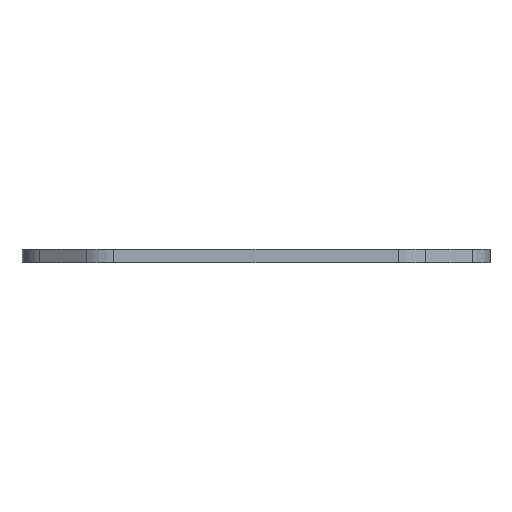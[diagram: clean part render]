
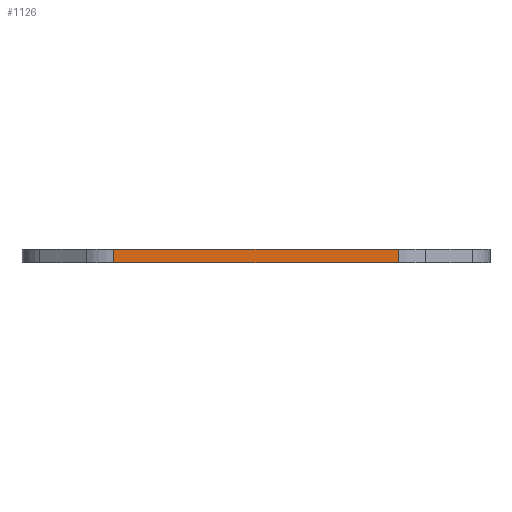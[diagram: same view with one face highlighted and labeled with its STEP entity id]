
A CAD part, front view. The second image highlights one B-rep face of the part: STEP entity #1126.
In plain terms, the highlighted planar face has unit normal (0, -1, 0).
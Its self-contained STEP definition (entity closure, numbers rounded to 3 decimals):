
#72 = PLANE('',#73);
#73 = AXIS2_PLACEMENT_3D('',#74,#75,#76);
#74 = CARTESIAN_POINT('',(52.,85.543,3.));
#75 = DIRECTION('',(0.,0.,1.));
#76 = DIRECTION('',(1.,0.,-0.));
#126 = PLANE('',#127);
#127 = AXIS2_PLACEMENT_3D('',#128,#129,#130);
#128 = CARTESIAN_POINT('',(52.,85.543,0.));
#129 = DIRECTION('',(0.,0.,1.));
#130 = DIRECTION('',(1.,0.,-0.));
#437 = VERTEX_POINT('',#438);
#438 = CARTESIAN_POINT('',(20.385,0.,0.));
#453 = CYLINDRICAL_SURFACE('',#454,10.);
#454 = AXIS2_PLACEMENT_3D('',#455,#456,#457);
#455 = CARTESIAN_POINT('',(20.385,10.,0.));
#456 = DIRECTION('',(-0.,-0.,-1.));
#457 = DIRECTION('',(1.,0.,-0.));
#465 = EDGE_CURVE('',#437,#466,#468,.T.);
#466 = VERTEX_POINT('',#467);
#467 = CARTESIAN_POINT('',(83.615,0.,0.));
#468 = SURFACE_CURVE('',#469,(#473,#480),.PCURVE_S1.);
#469 = LINE('',#470,#471);
#470 = CARTESIAN_POINT('',(20.385,0.,0.));
#471 = VECTOR('',#472,1.);
#472 = DIRECTION('',(1.,0.,0.));
#473 = PCURVE('',#126,#474);
#474 = DEFINITIONAL_REPRESENTATION('',(#475),#479);
#475 = LINE('',#476,#477);
#476 = CARTESIAN_POINT('',(-31.615,-85.543));
#477 = VECTOR('',#478,1.);
#478 = DIRECTION('',(1.,0.));
#479 = ( GEOMETRIC_REPRESENTATION_CONTEXT(2) 
PARAMETRIC_REPRESENTATION_CONTEXT() REPRESENTATION_CONTEXT('2D SPACE',''
  ) );
#480 = PCURVE('',#481,#486);
#481 = PLANE('',#482);
#482 = AXIS2_PLACEMENT_3D('',#483,#484,#485);
#483 = CARTESIAN_POINT('',(20.385,0.,0.));
#484 = DIRECTION('',(0.,1.,0.));
#485 = DIRECTION('',(1.,0.,0.));
#486 = DEFINITIONAL_REPRESENTATION('',(#487),#491);
#487 = LINE('',#488,#489);
#488 = CARTESIAN_POINT('',(0.,0.));
#489 = VECTOR('',#490,1.);
#490 = DIRECTION('',(1.,0.));
#491 = ( GEOMETRIC_REPRESENTATION_CONTEXT(2) 
PARAMETRIC_REPRESENTATION_CONTEXT() REPRESENTATION_CONTEXT('2D SPACE',''
  ) );
#510 = CYLINDRICAL_SURFACE('',#511,10.);
#511 = AXIS2_PLACEMENT_3D('',#512,#513,#514);
#512 = CARTESIAN_POINT('',(83.615,10.,0.));
#513 = DIRECTION('',(-0.,-0.,-1.));
#514 = DIRECTION('',(1.,0.,-0.));
#807 = VERTEX_POINT('',#808);
#808 = CARTESIAN_POINT('',(20.385,0.,3.));
#830 = EDGE_CURVE('',#807,#831,#833,.T.);
#831 = VERTEX_POINT('',#832);
#832 = CARTESIAN_POINT('',(83.615,0.,3.));
#833 = SURFACE_CURVE('',#834,(#838,#845),.PCURVE_S1.);
#834 = LINE('',#835,#836);
#835 = CARTESIAN_POINT('',(20.385,0.,3.));
#836 = VECTOR('',#837,1.);
#837 = DIRECTION('',(1.,0.,0.));
#838 = PCURVE('',#72,#839);
#839 = DEFINITIONAL_REPRESENTATION('',(#840),#844);
#840 = LINE('',#841,#842);
#841 = CARTESIAN_POINT('',(-31.615,-85.543));
#842 = VECTOR('',#843,1.);
#843 = DIRECTION('',(1.,0.));
#844 = ( GEOMETRIC_REPRESENTATION_CONTEXT(2) 
PARAMETRIC_REPRESENTATION_CONTEXT() REPRESENTATION_CONTEXT('2D SPACE',''
  ) );
#845 = PCURVE('',#481,#846);
#846 = DEFINITIONAL_REPRESENTATION('',(#847),#851);
#847 = LINE('',#848,#849);
#848 = CARTESIAN_POINT('',(0.,-3.));
#849 = VECTOR('',#850,1.);
#850 = DIRECTION('',(1.,0.));
#851 = ( GEOMETRIC_REPRESENTATION_CONTEXT(2) 
PARAMETRIC_REPRESENTATION_CONTEXT() REPRESENTATION_CONTEXT('2D SPACE',''
  ) );
#1076 = EDGE_CURVE('',#466,#831,#1077,.T.);
#1077 = SURFACE_CURVE('',#1078,(#1082,#1089),.PCURVE_S1.);
#1078 = LINE('',#1079,#1080);
#1079 = CARTESIAN_POINT('',(83.615,0.,0.));
#1080 = VECTOR('',#1081,1.);
#1081 = DIRECTION('',(0.,0.,1.));
#1082 = PCURVE('',#510,#1083);
#1083 = DEFINITIONAL_REPRESENTATION('',(#1084),#1088);
#1084 = LINE('',#1085,#1086);
#1085 = CARTESIAN_POINT('',(-4.712,0.));
#1086 = VECTOR('',#1087,1.);
#1087 = DIRECTION('',(-0.,-1.));
#1088 = ( GEOMETRIC_REPRESENTATION_CONTEXT(2) 
PARAMETRIC_REPRESENTATION_CONTEXT() REPRESENTATION_CONTEXT('2D SPACE',''
  ) );
#1089 = PCURVE('',#481,#1090);
#1090 = DEFINITIONAL_REPRESENTATION('',(#1091),#1095);
#1091 = LINE('',#1092,#1093);
#1092 = CARTESIAN_POINT('',(63.229,0.));
#1093 = VECTOR('',#1094,1.);
#1094 = DIRECTION('',(0.,-1.));
#1095 = ( GEOMETRIC_REPRESENTATION_CONTEXT(2) 
PARAMETRIC_REPRESENTATION_CONTEXT() REPRESENTATION_CONTEXT('2D SPACE',''
  ) );
#1126 = ADVANCED_FACE('',(#1127),#481,.F.);
#1127 = FACE_BOUND('',#1128,.F.);
#1128 = EDGE_LOOP('',(#1129,#1150,#1151,#1152));
#1129 = ORIENTED_EDGE('',*,*,#1130,.T.);
#1130 = EDGE_CURVE('',#437,#807,#1131,.T.);
#1131 = SURFACE_CURVE('',#1132,(#1136,#1143),.PCURVE_S1.);
#1132 = LINE('',#1133,#1134);
#1133 = CARTESIAN_POINT('',(20.385,0.,0.));
#1134 = VECTOR('',#1135,1.);
#1135 = DIRECTION('',(0.,0.,1.));
#1136 = PCURVE('',#481,#1137);
#1137 = DEFINITIONAL_REPRESENTATION('',(#1138),#1142);
#1138 = LINE('',#1139,#1140);
#1139 = CARTESIAN_POINT('',(0.,0.));
#1140 = VECTOR('',#1141,1.);
#1141 = DIRECTION('',(0.,-1.));
#1142 = ( GEOMETRIC_REPRESENTATION_CONTEXT(2) 
PARAMETRIC_REPRESENTATION_CONTEXT() REPRESENTATION_CONTEXT('2D SPACE',''
  ) );
#1143 = PCURVE('',#453,#1144);
#1144 = DEFINITIONAL_REPRESENTATION('',(#1145),#1149);
#1145 = LINE('',#1146,#1147);
#1146 = CARTESIAN_POINT('',(-4.712,0.));
#1147 = VECTOR('',#1148,1.);
#1148 = DIRECTION('',(-0.,-1.));
#1149 = ( GEOMETRIC_REPRESENTATION_CONTEXT(2) 
PARAMETRIC_REPRESENTATION_CONTEXT() REPRESENTATION_CONTEXT('2D SPACE',''
  ) );
#1150 = ORIENTED_EDGE('',*,*,#830,.T.);
#1151 = ORIENTED_EDGE('',*,*,#1076,.F.);
#1152 = ORIENTED_EDGE('',*,*,#465,.F.);
